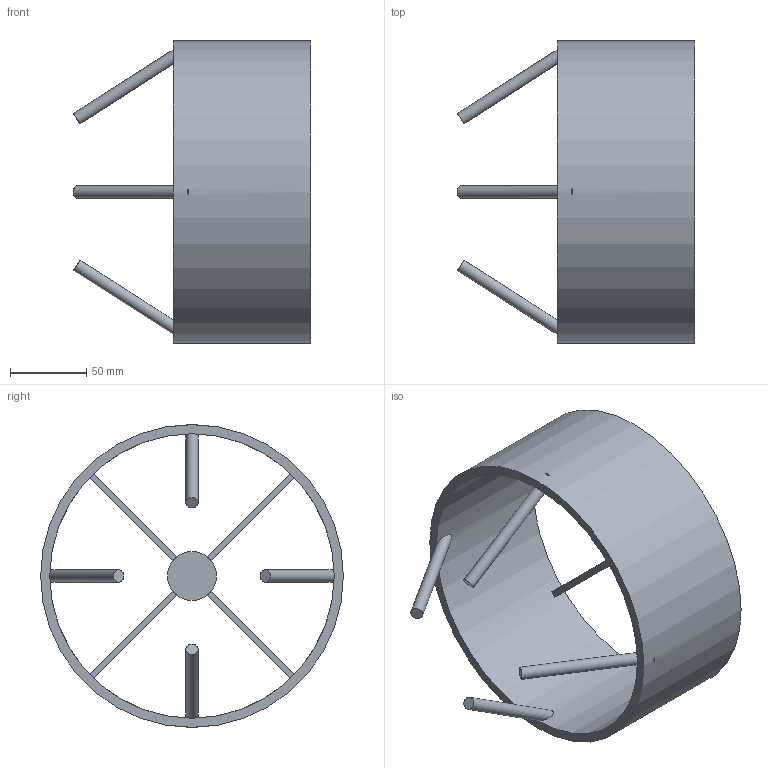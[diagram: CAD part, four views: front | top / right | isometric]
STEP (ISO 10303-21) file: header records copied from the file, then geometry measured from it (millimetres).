
FILE_DESCRIPTION(('Open CASCADE Model'),'2;1');
FILE_NAME('Open CASCADE Shape Model','2026-11-23T20:25:51',('Author'),( 'Open CASCADE'),'Open CASCADE STEP processor 7.9','Open CASCADE 7.9' ,'Unknown');
FILE_SCHEMA(('AUTOMOTIVE_DESIGN { 1 0 10303 214 1 1 1 1 }'));
Length unit declared in the file: millimetre
Products named in the file (1): Open CASCADE STEP translator 7.9 27
Bounding box: 155.16 x 198.74 x 198.74 mm (x, y, z)
Volume: 357951.4 mm3; surface area: 132620.2 mm2
Topology: 1 solids, 1 shells, 43 faces, 108 edges, 72 vertices
Faces by surface type: plane 32, cylinder 11
Full cylindrical faces by diameter (mm): 8 x4, 32 x1, 186 x1, 198 x1
Entity records: 4251 total; most frequent: CARTESIAN_POINT 2157, DIRECTION 367, ORIENTED_EDGE 216, PCURVE 216, DEFINITIONAL_REPRESENTATION 216, LINE 127, VECTOR 127, EDGE_CURVE 108
